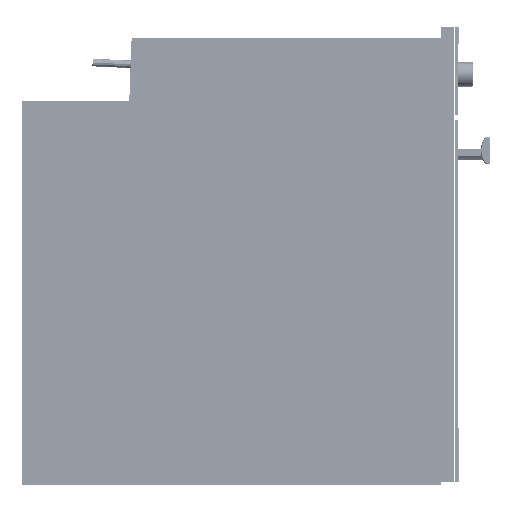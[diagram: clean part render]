
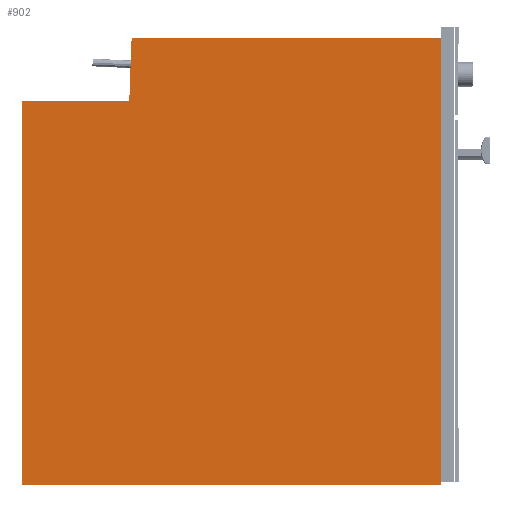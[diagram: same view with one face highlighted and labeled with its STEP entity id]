
A CAD part, front view. The second image highlights one B-rep face of the part: STEP entity #902.
In plain terms, the highlighted free-form (B-spline) face has degree [1, 1] with [2, 2] control points.
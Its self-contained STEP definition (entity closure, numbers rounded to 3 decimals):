
#902=ADVANCED_FACE('',(#1137),#2955,.T.);
#1137=FACE_OUTER_BOUND('',#1374,.T.);
#1374=EDGE_LOOP('',(#1953,#1954,#1955,#1956,#1957,#1958));
#1953=ORIENTED_EDGE('',*,*,#2457,.T.);
#1954=ORIENTED_EDGE('',*,*,#2460,.T.);
#1955=ORIENTED_EDGE('',*,*,#2471,.T.);
#1956=ORIENTED_EDGE('',*,*,#2474,.T.);
#1957=ORIENTED_EDGE('',*,*,#2476,.T.);
#1958=ORIENTED_EDGE('',*,*,#2453,.T.);
#2453=EDGE_CURVE('',#2752,#2751,#3105,.T.);
#2457=EDGE_CURVE('',#2751,#2754,#3109,.T.);
#2460=EDGE_CURVE('',#2754,#2756,#3112,.T.);
#2471=EDGE_CURVE('',#2756,#2766,#3123,.T.);
#2474=EDGE_CURVE('',#2766,#2768,#3126,.T.);
#2476=EDGE_CURVE('',#2768,#2752,#3128,.T.);
#2751=VERTEX_POINT('',#87272);
#2752=VERTEX_POINT('',#87273);
#2754=VERTEX_POINT('',#87275);
#2756=VERTEX_POINT('',#87277);
#2766=VERTEX_POINT('',#87287);
#2768=VERTEX_POINT('',#87289);
#2955=B_SPLINE_SURFACE_WITH_KNOTS('',1,1,((#87226,#87227),(#87228,#87229)),
.UNSPECIFIED.,.F.,.F.,.F.,(2,2),(2,2),(0.285,0.632),
(0.311,0.637),.UNSPECIFIED.);
#3105=B_SPLINE_CURVE_WITH_KNOTS('',1,(#87106,#87107),.UNSPECIFIED.,.F.,.F.,
(2,2),(0.,1.),.UNSPECIFIED.);
#3109=B_SPLINE_CURVE_WITH_KNOTS('',1,(#87114,#87115),.UNSPECIFIED.,.F.,.F.,
(2,2),(0.,1.),.UNSPECIFIED.);
#3112=B_SPLINE_CURVE_WITH_KNOTS('',1,(#87120,#87121),.UNSPECIFIED.,.F.,.F.,
(2,2),(0.,1.),.UNSPECIFIED.);
#3123=B_SPLINE_CURVE_WITH_KNOTS('',1,(#87150,#87151),.UNSPECIFIED.,.F.,.F.,
(2,2),(0.,1.),.UNSPECIFIED.);
#3126=B_SPLINE_CURVE_WITH_KNOTS('',1,(#87156,#87157),.UNSPECIFIED.,.F.,.F.,
(2,2),(0.,1.),.UNSPECIFIED.);
#3128=B_SPLINE_CURVE_WITH_KNOTS('',1,(#87160,#87161),.UNSPECIFIED.,.F.,.F.,
(2,2),(0.,1.),.UNSPECIFIED.);
#87106=CARTESIAN_POINT('',(-545.977,-276.5,499.849));
#87107=CARTESIAN_POINT('',(-545.977,-276.5,-0.011));
#87114=CARTESIAN_POINT('',(-545.977,-276.5,-0.011));
#87115=CARTESIAN_POINT('',(0.012,-276.5,-0.011));
#87120=CARTESIAN_POINT('',(0.012,-276.5,-0.011));
#87121=CARTESIAN_POINT('',(0.012,-276.5,582.164));
#87150=CARTESIAN_POINT('',(0.012,-276.5,582.164));
#87151=CARTESIAN_POINT('',(-403.197,-276.5,582.164));
#87156=CARTESIAN_POINT('',(-403.197,-276.5,582.164));
#87157=CARTESIAN_POINT('',(-406.269,-276.5,499.853));
#87160=CARTESIAN_POINT('',(-406.269,-276.5,499.853));
#87161=CARTESIAN_POINT('',(-545.977,-276.5,499.849));
#87226=CARTESIAN_POINT('',(0.012,-276.5,-0.011));
#87227=CARTESIAN_POINT('',(-545.977,-276.5,-0.011));
#87228=CARTESIAN_POINT('',(0.012,-276.5,582.164));
#87229=CARTESIAN_POINT('',(-545.977,-276.5,582.164));
#87272=CARTESIAN_POINT('',(-545.977,-276.5,-0.011));
#87273=CARTESIAN_POINT('',(-545.977,-276.5,499.849));
#87275=CARTESIAN_POINT('',(0.012,-276.5,-0.011));
#87277=CARTESIAN_POINT('',(0.012,-276.5,582.164));
#87287=CARTESIAN_POINT('',(-403.197,-276.5,582.164));
#87289=CARTESIAN_POINT('',(-406.269,-276.5,499.853));
